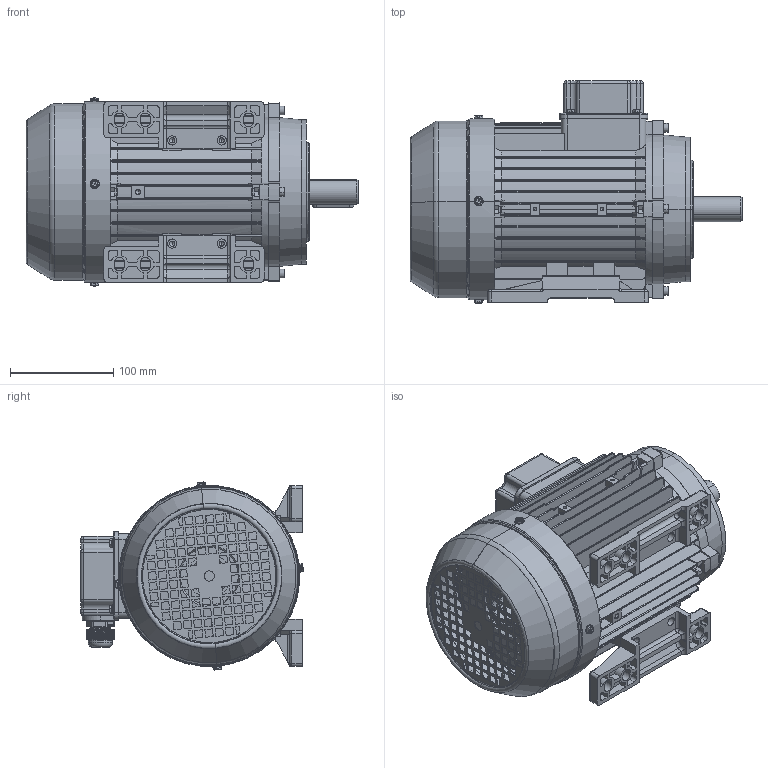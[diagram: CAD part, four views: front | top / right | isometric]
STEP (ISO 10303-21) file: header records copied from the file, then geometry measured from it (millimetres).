
FILE_DESCRIPTION (( 'STEP AP203' ), '1' );
FILE_NAME ('MSL90SL assembly B34.STEP', '2017-11-26T09:46:16', ( 'user' ), ( 'china' ), 'SwSTEP 2.0', 'SolidWorks 2016', '' );
FILE_SCHEMA (( 'CONFIG_CONTROL_DESIGN' ));
Length unit declared in the file: millimetre
Products named in the file (16): M90傷裔B3_Post; GB-T 29.2-1988 M4鞠褒坋趼湍菜_08; M90-Shaft drive end; MS90 綴裔瑞欶郪磁; MSL90SL assembly B34; MSL80-90堤盄碟_MSL80-90; GB-T 29.2-1988 M4鞠褒坋趼湍菜_05; MSL80-90堤盄碟蚾饜; GB-T 5780-2000 M5_020; GB-T 70.1-2000 M5_20; M90傷裔B14; M90M菁褐_Left; M90M菁褐_Right; M20 cable gland; MSL90-儂褲; M90瑞欶_082
Assembly tree (27 placements, depth 3):
  MSL90SL assembly B34
    MSL90-儂褲
    MS90 綴裔瑞欶郪磁
      M90傷裔B3_Post
      M90瑞欶_082
      GB-T 29.2-1988 M4鞠褒坋趼湍菜_08  x4
    MSL80-90堤盄碟蚾饜
      MSL80-90堤盄碟_MSL80-90
      GB-T 29.2-1988 M4鞠褒坋趼湍菜_05  x4
      M20 cable gland
    M90-Shaft drive end
    GB-T 70.1-2000 M5_20  x4
    GB-T 5780-2000 M5_020  x4
    M90M菁褐_Left
    M90M菁褐_Right
    M90傷裔B14
Bounding box: 321.5 x 215.55 x 182.1 mm (x, y, z)
Volume: 966985.2 mm3; surface area: 676856.1 mm2
Topology: 25 solids, 25 shells, 3555 faces, 9181 edges, 5730 vertices
Faces by surface type: plane 1782, cylinder 1101, cone 245, bspline 228, torus 187, sphere 12
Entity records: 121200 total; most frequent: CARTESIAN_POINT 43104, ORIENTED_EDGE 16518, DIRECTION 14984, EDGE_CURVE 8259, VERTEX_POINT 5253, AXIS2_PLACEMENT_3D 5099, LINE 4786, VECTOR 4786
